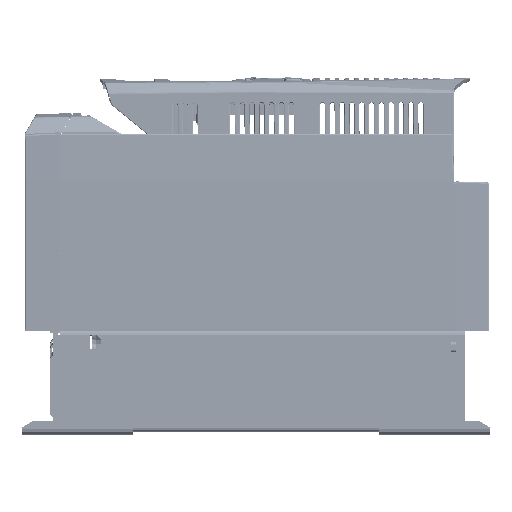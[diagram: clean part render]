
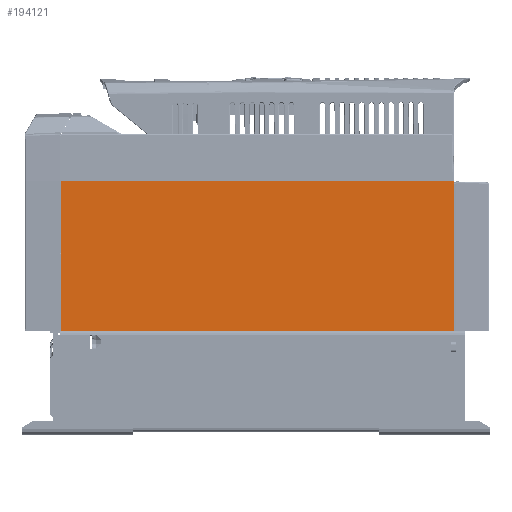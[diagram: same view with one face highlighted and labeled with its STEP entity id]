
A CAD part, left-side view. The second image highlights one B-rep face of the part: STEP entity #194121.
In plain terms, the highlighted planar face has unit normal (-1, 0, 0).
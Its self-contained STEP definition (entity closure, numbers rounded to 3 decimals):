
#11132=LINE('',#289403,#27421);
#11133=LINE('',#289405,#27422);
#11134=LINE('',#289407,#27423);
#11135=LINE('',#289409,#27424);
#11136=LINE('',#289411,#27425);
#11137=LINE('',#289412,#27426);
#27421=VECTOR('',#229720,85.4);
#27422=VECTOR('',#229721,20.8);
#27423=VECTOR('',#229722,279.5);
#27424=VECTOR('',#229723,17.6);
#27425=VECTOR('',#229724,88.6);
#27426=VECTOR('',#229725,279.5);
#41811=PLANE('',#205938);
#50626=FACE_OUTER_BOUND('',#62090,.T.);
#62090=EDGE_LOOP('',(#135363,#135364,#135365,#135366,#135367,#135368));
#83323=VERTEX_POINT('',#286552);
#84210=VERTEX_POINT('',#289402);
#84211=VERTEX_POINT('',#289404);
#84212=VERTEX_POINT('',#289406);
#84213=VERTEX_POINT('',#289408);
#84214=VERTEX_POINT('',#289410);
#103990=EDGE_CURVE('',#84210,#83323,#11132,.T.);
#103991=EDGE_CURVE('',#83323,#84211,#11133,.T.);
#103992=EDGE_CURVE('',#84211,#84212,#11134,.T.);
#103993=EDGE_CURVE('',#84212,#84213,#11135,.T.);
#103994=EDGE_CURVE('',#84214,#84213,#11136,.T.);
#103995=EDGE_CURVE('',#84214,#84210,#11137,.T.);
#135363=ORIENTED_EDGE('',*,*,#103990,.T.);
#135364=ORIENTED_EDGE('',*,*,#103991,.T.);
#135365=ORIENTED_EDGE('',*,*,#103992,.T.);
#135366=ORIENTED_EDGE('',*,*,#103993,.T.);
#135367=ORIENTED_EDGE('',*,*,#103994,.F.);
#135368=ORIENTED_EDGE('',*,*,#103995,.T.);
#194121=ADVANCED_FACE('',(#50626),#41811,.T.);
#205938=AXIS2_PLACEMENT_3D('',#289401,#229718,#229719);
#229718=DIRECTION('center_axis',(-1.,0.,0.));
#229719=DIRECTION('ref_axis',(0.,1.,0.));
#229720=DIRECTION('',(0.,0.,-1.));
#229721=DIRECTION('',(0.,0.,-1.));
#229722=DIRECTION('',(0.,-1.,0.));
#229723=DIRECTION('',(0.,0.,1.));
#229724=DIRECTION('',(0.,0.,-1.));
#229725=DIRECTION('',(0.,1.,0.));
#286552=CARTESIAN_POINT('',(0.,304.,20.8));
#289401=CARTESIAN_POINT('Origin',(0.,24.5,106.2));
#289402=CARTESIAN_POINT('',(0.,304.,106.2));
#289403=CARTESIAN_POINT('',(0.,304.,63.5));
#289404=CARTESIAN_POINT('',(0.,304.,0.));
#289405=CARTESIAN_POINT('',(0.,304.,173.753));
#289406=CARTESIAN_POINT('',(0.,24.5,0.));
#289407=CARTESIAN_POINT('',(0.,177.48,0.));
#289408=CARTESIAN_POINT('',(0.,24.5,17.6));
#289409=CARTESIAN_POINT('',(0.,24.5,8.797));
#289410=CARTESIAN_POINT('',(0.,24.5,106.2));
#289411=CARTESIAN_POINT('',(0.,24.5,61.9));
#289412=CARTESIAN_POINT('',(0.,164.25,106.2));
